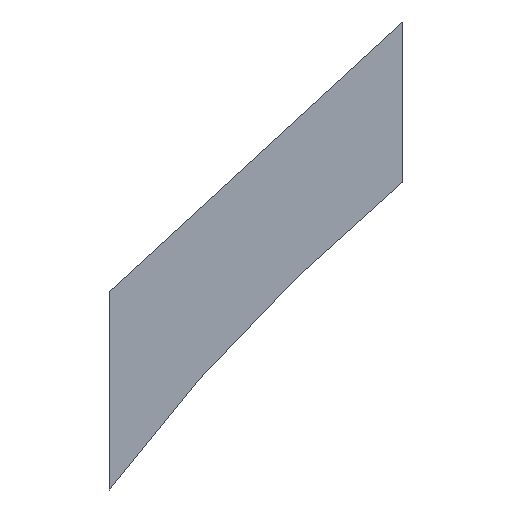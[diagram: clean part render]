
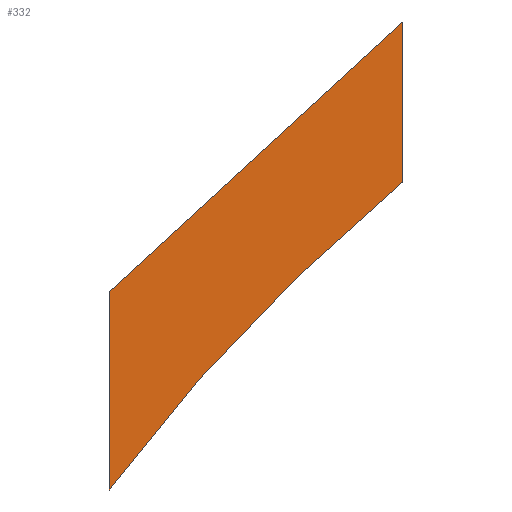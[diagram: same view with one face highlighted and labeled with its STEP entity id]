
A CAD part, left-side view. The second image highlights one B-rep face of the part: STEP entity #332.
In plain terms, the highlighted planar face has unit normal (-1, 0, 0).
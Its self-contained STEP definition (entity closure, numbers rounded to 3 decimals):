
#45 = CYLINDRICAL_SURFACE('',#46,17.65);
#46 = AXIS2_PLACEMENT_3D('',#47,#48,#49);
#47 = CARTESIAN_POINT('',(91.5,0.,0.));
#48 = DIRECTION('',(1.,0.,0.));
#49 = DIRECTION('',(-0.,0.,1.));
#73 = PLANE('',#74);
#74 = AXIS2_PLACEMENT_3D('',#75,#76,#77);
#75 = CARTESIAN_POINT('',(92.5,14.1,0.));
#76 = DIRECTION('',(-0.,1.,0.));
#77 = DIRECTION('',(0.,0.,1.));
#101 = PLANE('',#102);
#102 = AXIS2_PLACEMENT_3D('',#103,#104,#105);
#103 = CARTESIAN_POINT('',(92.5,-3.416,28.631));
#104 = DIRECTION('',(-0.,0.677,0.736));
#105 = DIRECTION('',(0.,0.736,-0.677));
#127 = PLANE('',#128);
#128 = AXIS2_PLACEMENT_3D('',#129,#130,#131);
#129 = CARTESIAN_POINT('',(92.5,11.3,0.));
#130 = DIRECTION('',(-0.,1.,0.));
#131 = DIRECTION('',(0.,0.,1.));
#144 = VERTEX_POINT('',#145);
#145 = CARTESIAN_POINT('',(92.5,14.1,10.617));
#164 = EDGE_CURVE('',#144,#165,#167,.T.);
#165 = VERTEX_POINT('',#166);
#166 = CARTESIAN_POINT('',(92.5,11.3,13.558));
#167 = SURFACE_CURVE('',#168,(#173,#180),.PCURVE_S1.);
#168 = CIRCLE('',#169,17.65);
#169 = AXIS2_PLACEMENT_3D('',#170,#171,#172);
#170 = CARTESIAN_POINT('',(92.5,0.,0.));
#171 = DIRECTION('',(1.,0.,0.));
#172 = DIRECTION('',(-0.,0.,1.));
#173 = PCURVE('',#45,#174);
#174 = DEFINITIONAL_REPRESENTATION('',(#175),#179);
#175 = LINE('',#176,#177);
#176 = CARTESIAN_POINT('',(0.,1.));
#177 = VECTOR('',#178,1.);
#178 = DIRECTION('',(1.,0.));
#179 = ( GEOMETRIC_REPRESENTATION_CONTEXT(2) 
PARAMETRIC_REPRESENTATION_CONTEXT() REPRESENTATION_CONTEXT('2D SPACE',''
  ) );
#180 = PCURVE('',#181,#186);
#181 = PLANE('',#182);
#182 = AXIS2_PLACEMENT_3D('',#183,#184,#185);
#183 = CARTESIAN_POINT('',(92.5,0.,0.));
#184 = DIRECTION('',(1.,0.,0.));
#185 = DIRECTION('',(-0.,0.,1.));
#186 = DEFINITIONAL_REPRESENTATION('',(#187),#191);
#187 = CIRCLE('',#188,17.65);
#188 = AXIS2_PLACEMENT_2D('',#189,#190);
#189 = CARTESIAN_POINT('',(0.,0.));
#190 = DIRECTION('',(1.,0.));
#191 = ( GEOMETRIC_REPRESENTATION_CONTEXT(2) 
PARAMETRIC_REPRESENTATION_CONTEXT() REPRESENTATION_CONTEXT('2D SPACE',''
  ) );
#217 = EDGE_CURVE('',#165,#218,#220,.T.);
#218 = VERTEX_POINT('',#219);
#219 = CARTESIAN_POINT('',(92.5,11.3,15.087));
#220 = SURFACE_CURVE('',#221,(#225,#232),.PCURVE_S1.);
#221 = LINE('',#222,#223);
#222 = CARTESIAN_POINT('',(92.5,11.3,0.));
#223 = VECTOR('',#224,1.);
#224 = DIRECTION('',(0.,0.,1.));
#225 = PCURVE('',#127,#226);
#226 = DEFINITIONAL_REPRESENTATION('',(#227),#231);
#227 = LINE('',#228,#229);
#228 = CARTESIAN_POINT('',(0.,0.));
#229 = VECTOR('',#230,1.);
#230 = DIRECTION('',(1.,0.));
#231 = ( GEOMETRIC_REPRESENTATION_CONTEXT(2) 
PARAMETRIC_REPRESENTATION_CONTEXT() REPRESENTATION_CONTEXT('2D SPACE',''
  ) );
#232 = PCURVE('',#181,#233);
#233 = DEFINITIONAL_REPRESENTATION('',(#234),#238);
#234 = LINE('',#235,#236);
#235 = CARTESIAN_POINT('',(0.,-11.3));
#236 = VECTOR('',#237,1.);
#237 = DIRECTION('',(1.,0.));
#238 = ( GEOMETRIC_REPRESENTATION_CONTEXT(2) 
PARAMETRIC_REPRESENTATION_CONTEXT() REPRESENTATION_CONTEXT('2D SPACE',''
  ) );
#262 = EDGE_CURVE('',#218,#263,#265,.T.);
#263 = VERTEX_POINT('',#264);
#264 = CARTESIAN_POINT('',(92.5,14.1,12.51));
#265 = SURFACE_CURVE('',#266,(#270,#277),.PCURVE_S1.);
#266 = LINE('',#267,#268);
#267 = CARTESIAN_POINT('',(92.5,-3.416,28.631));
#268 = VECTOR('',#269,1.);
#269 = DIRECTION('',(0.,0.736,-0.677));
#270 = PCURVE('',#101,#271);
#271 = DEFINITIONAL_REPRESENTATION('',(#272),#276);
#272 = LINE('',#273,#274);
#273 = CARTESIAN_POINT('',(0.,0.));
#274 = VECTOR('',#275,1.);
#275 = DIRECTION('',(1.,0.));
#276 = ( GEOMETRIC_REPRESENTATION_CONTEXT(2) 
PARAMETRIC_REPRESENTATION_CONTEXT() REPRESENTATION_CONTEXT('2D SPACE',''
  ) );
#277 = PCURVE('',#181,#278);
#278 = DEFINITIONAL_REPRESENTATION('',(#279),#283);
#279 = LINE('',#280,#281);
#280 = CARTESIAN_POINT('',(28.631,3.416));
#281 = VECTOR('',#282,1.);
#282 = DIRECTION('',(-0.677,-0.736));
#283 = ( GEOMETRIC_REPRESENTATION_CONTEXT(2) 
PARAMETRIC_REPRESENTATION_CONTEXT() REPRESENTATION_CONTEXT('2D SPACE',''
  ) );
#311 = EDGE_CURVE('',#144,#263,#312,.T.);
#312 = SURFACE_CURVE('',#313,(#317,#324),.PCURVE_S1.);
#313 = LINE('',#314,#315);
#314 = CARTESIAN_POINT('',(92.5,14.1,0.));
#315 = VECTOR('',#316,1.);
#316 = DIRECTION('',(0.,0.,1.));
#317 = PCURVE('',#73,#318);
#318 = DEFINITIONAL_REPRESENTATION('',(#319),#323);
#319 = LINE('',#320,#321);
#320 = CARTESIAN_POINT('',(0.,0.));
#321 = VECTOR('',#322,1.);
#322 = DIRECTION('',(1.,0.));
#323 = ( GEOMETRIC_REPRESENTATION_CONTEXT(2) 
PARAMETRIC_REPRESENTATION_CONTEXT() REPRESENTATION_CONTEXT('2D SPACE',''
  ) );
#324 = PCURVE('',#181,#325);
#325 = DEFINITIONAL_REPRESENTATION('',(#326),#330);
#326 = LINE('',#327,#328);
#327 = CARTESIAN_POINT('',(0.,-14.1));
#328 = VECTOR('',#329,1.);
#329 = DIRECTION('',(1.,0.));
#330 = ( GEOMETRIC_REPRESENTATION_CONTEXT(2) 
PARAMETRIC_REPRESENTATION_CONTEXT() REPRESENTATION_CONTEXT('2D SPACE',''
  ) );
#332 = ADVANCED_FACE('',(#333),#181,.F.);
#333 = FACE_BOUND('',#334,.F.);
#334 = EDGE_LOOP('',(#335,#336,#337,#338));
#335 = ORIENTED_EDGE('',*,*,#164,.F.);
#336 = ORIENTED_EDGE('',*,*,#311,.T.);
#337 = ORIENTED_EDGE('',*,*,#262,.F.);
#338 = ORIENTED_EDGE('',*,*,#217,.F.);
